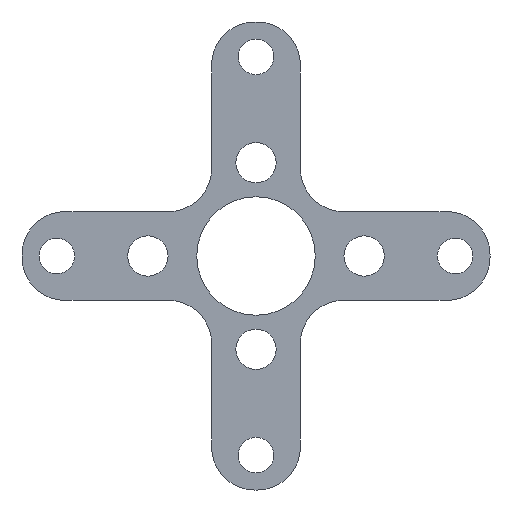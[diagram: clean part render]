
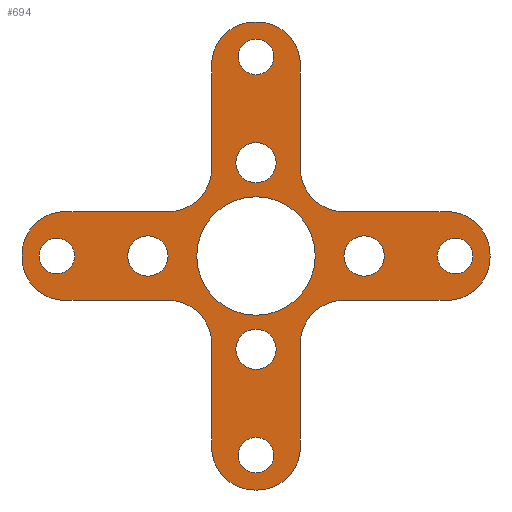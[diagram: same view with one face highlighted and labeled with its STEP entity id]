
A CAD part, front view. The second image highlights one B-rep face of the part: STEP entity #694.
In plain terms, the highlighted planar face has unit normal (0, -1, 0).
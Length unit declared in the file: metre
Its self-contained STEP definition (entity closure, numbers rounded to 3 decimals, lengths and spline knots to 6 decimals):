
#57=LINE('',#1134,#105);
#58=LINE('',#1138,#106);
#59=LINE('',#1142,#107);
#60=LINE('',#1146,#108);
#61=LINE('',#1150,#109);
#62=LINE('',#1154,#110);
#63=LINE('',#1158,#111);
#64=LINE('',#1162,#112);
#65=LINE('',#1166,#113);
#66=LINE('',#1170,#114);
#67=LINE('',#1174,#115);
#68=LINE('',#1178,#116);
#105=VECTOR('',#904,1.);
#106=VECTOR('',#907,1.);
#107=VECTOR('',#910,1.);
#108=VECTOR('',#913,1.);
#109=VECTOR('',#916,1.);
#110=VECTOR('',#919,1.);
#111=VECTOR('',#922,1.);
#112=VECTOR('',#925,1.);
#113=VECTOR('',#928,1.);
#114=VECTOR('',#931,1.);
#115=VECTOR('',#934,1.);
#116=VECTOR('',#937,1.);
#174=ORIENTED_EDGE('',*,*,#362,.F.);
#175=ORIENTED_EDGE('',*,*,#363,.F.);
#176=ORIENTED_EDGE('',*,*,#364,.F.);
#177=ORIENTED_EDGE('',*,*,#365,.F.);
#178=ORIENTED_EDGE('',*,*,#366,.T.);
#179=ORIENTED_EDGE('',*,*,#367,.T.);
#180=ORIENTED_EDGE('',*,*,#368,.F.);
#181=ORIENTED_EDGE('',*,*,#369,.F.);
#182=ORIENTED_EDGE('',*,*,#370,.F.);
#183=ORIENTED_EDGE('',*,*,#371,.F.);
#184=ORIENTED_EDGE('',*,*,#372,.F.);
#185=ORIENTED_EDGE('',*,*,#373,.F.);
#186=ORIENTED_EDGE('',*,*,#374,.F.);
#187=ORIENTED_EDGE('',*,*,#375,.F.);
#188=ORIENTED_EDGE('',*,*,#376,.F.);
#189=ORIENTED_EDGE('',*,*,#377,.F.);
#190=ORIENTED_EDGE('',*,*,#378,.F.);
#191=ORIENTED_EDGE('',*,*,#379,.F.);
#192=ORIENTED_EDGE('',*,*,#380,.F.);
#193=ORIENTED_EDGE('',*,*,#381,.F.);
#194=ORIENTED_EDGE('',*,*,#382,.F.);
#195=ORIENTED_EDGE('',*,*,#383,.F.);
#196=ORIENTED_EDGE('',*,*,#384,.F.);
#197=ORIENTED_EDGE('',*,*,#385,.F.);
#198=ORIENTED_EDGE('',*,*,#386,.F.);
#199=ORIENTED_EDGE('',*,*,#387,.F.);
#200=ORIENTED_EDGE('',*,*,#388,.F.);
#201=ORIENTED_EDGE('',*,*,#389,.F.);
#202=ORIENTED_EDGE('',*,*,#390,.F.);
#203=ORIENTED_EDGE('',*,*,#391,.F.);
#204=ORIENTED_EDGE('',*,*,#392,.T.);
#205=ORIENTED_EDGE('',*,*,#393,.T.);
#206=ORIENTED_EDGE('',*,*,#394,.T.);
#362=EDGE_CURVE('',#456,#456,#514,.T.);
#363=EDGE_CURVE('',#457,#457,#515,.T.);
#364=EDGE_CURVE('',#458,#458,#516,.T.);
#365=EDGE_CURVE('',#459,#459,#517,.T.);
#366=EDGE_CURVE('',#460,#460,#518,.T.);
#367=EDGE_CURVE('',#461,#461,#519,.T.);
#368=EDGE_CURVE('',#462,#463,#520,.T.);
#369=EDGE_CURVE('',#464,#462,#57,.T.);
#370=EDGE_CURVE('',#465,#464,#521,.T.);
#371=EDGE_CURVE('',#466,#465,#58,.T.);
#372=EDGE_CURVE('',#467,#466,#522,.T.);
#373=EDGE_CURVE('',#468,#467,#59,.T.);
#374=EDGE_CURVE('',#469,#468,#523,.T.);
#375=EDGE_CURVE('',#470,#469,#60,.T.);
#376=EDGE_CURVE('',#471,#470,#524,.T.);
#377=EDGE_CURVE('',#472,#471,#61,.T.);
#378=EDGE_CURVE('',#473,#472,#525,.T.);
#379=EDGE_CURVE('',#474,#473,#62,.T.);
#380=EDGE_CURVE('',#475,#474,#526,.T.);
#381=EDGE_CURVE('',#476,#475,#63,.T.);
#382=EDGE_CURVE('',#477,#476,#527,.T.);
#383=EDGE_CURVE('',#478,#477,#64,.T.);
#384=EDGE_CURVE('',#479,#478,#528,.T.);
#385=EDGE_CURVE('',#480,#479,#65,.T.);
#386=EDGE_CURVE('',#481,#480,#529,.T.);
#387=EDGE_CURVE('',#482,#481,#66,.T.);
#388=EDGE_CURVE('',#483,#482,#530,.T.);
#389=EDGE_CURVE('',#484,#483,#67,.T.);
#390=EDGE_CURVE('',#485,#484,#531,.T.);
#391=EDGE_CURVE('',#463,#485,#68,.T.);
#392=EDGE_CURVE('',#486,#486,#532,.T.);
#393=EDGE_CURVE('',#487,#487,#533,.T.);
#394=EDGE_CURVE('',#488,#488,#534,.T.);
#456=VERTEX_POINT('',#1120);
#457=VERTEX_POINT('',#1122);
#458=VERTEX_POINT('',#1124);
#459=VERTEX_POINT('',#1126);
#460=VERTEX_POINT('',#1128);
#461=VERTEX_POINT('',#1130);
#462=VERTEX_POINT('',#1132);
#463=VERTEX_POINT('',#1133);
#464=VERTEX_POINT('',#1135);
#465=VERTEX_POINT('',#1137);
#466=VERTEX_POINT('',#1139);
#467=VERTEX_POINT('',#1141);
#468=VERTEX_POINT('',#1143);
#469=VERTEX_POINT('',#1145);
#470=VERTEX_POINT('',#1147);
#471=VERTEX_POINT('',#1149);
#472=VERTEX_POINT('',#1151);
#473=VERTEX_POINT('',#1153);
#474=VERTEX_POINT('',#1155);
#475=VERTEX_POINT('',#1157);
#476=VERTEX_POINT('',#1159);
#477=VERTEX_POINT('',#1161);
#478=VERTEX_POINT('',#1163);
#479=VERTEX_POINT('',#1165);
#480=VERTEX_POINT('',#1167);
#481=VERTEX_POINT('',#1169);
#482=VERTEX_POINT('',#1171);
#483=VERTEX_POINT('',#1173);
#484=VERTEX_POINT('',#1175);
#485=VERTEX_POINT('',#1177);
#486=VERTEX_POINT('',#1180);
#487=VERTEX_POINT('',#1182);
#488=VERTEX_POINT('',#1184);
#514=CIRCLE('',#768,0.001727);
#515=CIRCLE('',#769,0.001727);
#516=CIRCLE('',#770,0.001727);
#517=CIRCLE('',#771,0.001727);
#518=CIRCLE('',#772,0.001524);
#519=CIRCLE('',#773,0.001524);
#520=CIRCLE('',#774,0.003683);
#521=CIRCLE('',#775,0.003683);
#522=CIRCLE('',#776,0.003683);
#523=CIRCLE('',#777,0.003683);
#524=CIRCLE('',#778,0.003683);
#525=CIRCLE('',#779,0.003683);
#526=CIRCLE('',#780,0.003683);
#527=CIRCLE('',#781,0.003683);
#528=CIRCLE('',#782,0.003683);
#529=CIRCLE('',#783,0.003683);
#530=CIRCLE('',#784,0.003683);
#531=CIRCLE('',#785,0.003683);
#532=CIRCLE('',#786,0.00508);
#533=CIRCLE('',#787,0.001524);
#534=CIRCLE('',#788,0.001524);
#549=EDGE_LOOP('',(#174));
#550=EDGE_LOOP('',(#175));
#551=EDGE_LOOP('',(#176));
#552=EDGE_LOOP('',(#177));
#553=EDGE_LOOP('',(#178));
#554=EDGE_LOOP('',(#179));
#555=EDGE_LOOP('',(#180,#181,#182,#183,#184,#185,#186,#187,#188,#189,#190,
#191,#192,#193,#194,#195,#196,#197,#198,#199,#200,#201,#202,#203));
#556=EDGE_LOOP('',(#204));
#557=EDGE_LOOP('',(#205));
#558=EDGE_LOOP('',(#206));
#619=FACE_BOUND('',#549,.T.);
#620=FACE_BOUND('',#550,.T.);
#621=FACE_BOUND('',#551,.T.);
#622=FACE_BOUND('',#552,.T.);
#623=FACE_BOUND('',#553,.T.);
#624=FACE_BOUND('',#554,.T.);
#625=FACE_BOUND('',#555,.T.);
#626=FACE_BOUND('',#556,.T.);
#627=FACE_BOUND('',#557,.T.);
#628=FACE_BOUND('',#558,.T.);
#680=PLANE('',#767);
#694=ADVANCED_FACE('',(#619,#620,#621,#622,#623,#624,#625,#626,#627,#628),
#680,.T.);
#767=AXIS2_PLACEMENT_3D('',#1118,#888,#889);
#768=AXIS2_PLACEMENT_3D('',#1119,#890,#891);
#769=AXIS2_PLACEMENT_3D('',#1121,#892,#893);
#770=AXIS2_PLACEMENT_3D('',#1123,#894,#895);
#771=AXIS2_PLACEMENT_3D('',#1125,#896,#897);
#772=AXIS2_PLACEMENT_3D('',#1127,#898,#899);
#773=AXIS2_PLACEMENT_3D('',#1129,#900,#901);
#774=AXIS2_PLACEMENT_3D('',#1131,#902,#903);
#775=AXIS2_PLACEMENT_3D('',#1136,#905,#906);
#776=AXIS2_PLACEMENT_3D('',#1140,#908,#909);
#777=AXIS2_PLACEMENT_3D('',#1144,#911,#912);
#778=AXIS2_PLACEMENT_3D('',#1148,#914,#915);
#779=AXIS2_PLACEMENT_3D('',#1152,#917,#918);
#780=AXIS2_PLACEMENT_3D('',#1156,#920,#921);
#781=AXIS2_PLACEMENT_3D('',#1160,#923,#924);
#782=AXIS2_PLACEMENT_3D('',#1164,#926,#927);
#783=AXIS2_PLACEMENT_3D('',#1168,#929,#930);
#784=AXIS2_PLACEMENT_3D('',#1172,#932,#933);
#785=AXIS2_PLACEMENT_3D('',#1176,#935,#936);
#786=AXIS2_PLACEMENT_3D('',#1179,#938,#939);
#787=AXIS2_PLACEMENT_3D('',#1181,#940,#941);
#788=AXIS2_PLACEMENT_3D('',#1183,#942,#943);
#888=DIRECTION('',(0.,-1.,0.));
#889=DIRECTION('',(0.,0.,-1.));
#890=DIRECTION('',(0.,-1.,0.));
#891=DIRECTION('',(0.,0.,-1.));
#892=DIRECTION('',(0.,-1.,0.));
#893=DIRECTION('',(0.,0.,-1.));
#894=DIRECTION('',(0.,-1.,0.));
#895=DIRECTION('',(0.,0.,-1.));
#896=DIRECTION('',(0.,-1.,0.));
#897=DIRECTION('',(0.,0.,-1.));
#898=DIRECTION('',(0.,1.,0.));
#899=DIRECTION('',(0.,0.,1.));
#900=DIRECTION('',(0.,1.,0.));
#901=DIRECTION('',(0.,0.,1.));
#902=DIRECTION('',(0.,1.,0.));
#903=DIRECTION('',(0.,0.,-1.));
#904=DIRECTION('',(-1.,0.,0.));
#905=DIRECTION('',(0.,-1.,0.));
#906=DIRECTION('',(0.,0.,-1.));
#907=DIRECTION('',(0.,0.,1.));
#908=DIRECTION('',(0.,1.,0.));
#909=DIRECTION('',(0.,0.,-1.));
#910=DIRECTION('',(-1.,0.,0.));
#911=DIRECTION('',(0.,1.,0.));
#912=DIRECTION('',(0.,0.,-1.));
#913=DIRECTION('',(0.,0.,-1.));
#914=DIRECTION('',(0.,-1.,0.));
#915=DIRECTION('',(0.,0.,-1.));
#916=DIRECTION('',(-1.,0.,0.));
#917=DIRECTION('',(0.,1.,0.));
#918=DIRECTION('',(0.,0.,-1.));
#919=DIRECTION('',(0.,0.,-1.));
#920=DIRECTION('',(0.,1.,0.));
#921=DIRECTION('',(0.,0.,1.));
#922=DIRECTION('',(1.,0.,0.));
#923=DIRECTION('',(0.,-1.,0.));
#924=DIRECTION('',(0.,0.,-1.));
#925=DIRECTION('',(0.,0.,-1.));
#926=DIRECTION('',(0.,1.,0.));
#927=DIRECTION('',(0.,0.,1.));
#928=DIRECTION('',(1.,0.,0.));
#929=DIRECTION('',(0.,1.,0.));
#930=DIRECTION('',(0.,0.,-1.));
#931=DIRECTION('',(0.,0.,1.));
#932=DIRECTION('',(0.,-1.,0.));
#933=DIRECTION('',(0.,0.,-1.));
#934=DIRECTION('',(1.,0.,0.));
#935=DIRECTION('',(0.,1.,0.));
#936=DIRECTION('',(0.,0.,-1.));
#937=DIRECTION('',(0.,0.,1.));
#938=DIRECTION('',(0.,1.,0.));
#939=DIRECTION('',(0.,0.,1.));
#940=DIRECTION('',(0.,1.,0.));
#941=DIRECTION('',(0.,0.,1.));
#942=DIRECTION('',(0.,1.,0.));
#943=DIRECTION('',(0.,0.,1.));
#1118=CARTESIAN_POINT('',(-0.016383,0.,-0.000127));
#1119=CARTESIAN_POINT('',(0.,0.,-0.008001));
#1120=CARTESIAN_POINT('',(0.,0.,-0.009728));
#1121=CARTESIAN_POINT('',(0.,0.,0.008001));
#1122=CARTESIAN_POINT('',(0.,0.,0.006274));
#1123=CARTESIAN_POINT('',(0.009271,0.,0.));
#1124=CARTESIAN_POINT('',(0.009271,0.,-0.001727));
#1125=CARTESIAN_POINT('',(-0.009271,0.,0.));
#1126=CARTESIAN_POINT('',(-0.009271,0.,-0.001727));
#1127=CARTESIAN_POINT('',(-0.017082,0.,0.));
#1128=CARTESIAN_POINT('',(-0.017082,0.,0.001524));
#1129=CARTESIAN_POINT('',(0.,0.,-0.017082));
#1130=CARTESIAN_POINT('',(0.,0.,-0.015558));
#1131=CARTESIAN_POINT('',(-0.016383,0.,-0.000127));
#1132=CARTESIAN_POINT('',(-0.016383,0.,-0.00381));
#1133=CARTESIAN_POINT('',(-0.020066,0.,-0.000127));
#1134=CARTESIAN_POINT('',(-0.016383,0.,-0.00381));
#1135=CARTESIAN_POINT('',(-0.007493,0.,-0.00381));
#1136=CARTESIAN_POINT('',(-0.007493,0.,-0.007493));
#1137=CARTESIAN_POINT('',(-0.00381,0.,-0.007493));
#1138=CARTESIAN_POINT('',(-0.00381,0.,-0.007493));
#1139=CARTESIAN_POINT('',(-0.00381,0.,-0.016383));
#1140=CARTESIAN_POINT('',(-0.000127,0.,-0.016383));
#1141=CARTESIAN_POINT('',(-0.000127,0.,-0.020066));
#1142=CARTESIAN_POINT('',(-0.000127,0.,-0.020066));
#1143=CARTESIAN_POINT('',(0.000127,0.,-0.020066));
#1144=CARTESIAN_POINT('',(0.000127,0.,-0.016383));
#1145=CARTESIAN_POINT('',(0.00381,0.,-0.016383));
#1146=CARTESIAN_POINT('',(0.00381,0.,-0.007493));
#1147=CARTESIAN_POINT('',(0.00381,0.,-0.007493));
#1148=CARTESIAN_POINT('',(0.007493,0.,-0.007493));
#1149=CARTESIAN_POINT('',(0.007493,0.,-0.00381));
#1150=CARTESIAN_POINT('',(0.007493,0.,-0.00381));
#1151=CARTESIAN_POINT('',(0.016383,0.,-0.00381));
#1152=CARTESIAN_POINT('',(0.016383,0.,-0.000127));
#1153=CARTESIAN_POINT('',(0.020066,0.,-0.000127));
#1154=CARTESIAN_POINT('',(0.020066,0.,0.000127));
#1155=CARTESIAN_POINT('',(0.020066,0.,0.000127));
#1156=CARTESIAN_POINT('',(0.016383,0.,0.000127));
#1157=CARTESIAN_POINT('',(0.016383,0.,0.00381));
#1158=CARTESIAN_POINT('',(0.007493,0.,0.00381));
#1159=CARTESIAN_POINT('',(0.007493,0.,0.00381));
#1160=CARTESIAN_POINT('',(0.007493,0.,0.007493));
#1161=CARTESIAN_POINT('',(0.00381,0.,0.007493));
#1162=CARTESIAN_POINT('',(0.00381,0.,0.016383));
#1163=CARTESIAN_POINT('',(0.00381,0.,0.016383));
#1164=CARTESIAN_POINT('',(0.000127,0.,0.016383));
#1165=CARTESIAN_POINT('',(0.000127,0.,0.020066));
#1166=CARTESIAN_POINT('',(-0.000127,0.,0.020066));
#1167=CARTESIAN_POINT('',(-0.000127,0.,0.020066));
#1168=CARTESIAN_POINT('',(-0.000127,0.,0.016383));
#1169=CARTESIAN_POINT('',(-0.00381,0.,0.016383));
#1170=CARTESIAN_POINT('',(-0.00381,0.,0.016383));
#1171=CARTESIAN_POINT('',(-0.00381,0.,0.007493));
#1172=CARTESIAN_POINT('',(-0.007493,0.,0.007493));
#1173=CARTESIAN_POINT('',(-0.007493,0.,0.00381));
#1174=CARTESIAN_POINT('',(-0.016383,0.,0.00381));
#1175=CARTESIAN_POINT('',(-0.016383,0.,0.00381));
#1176=CARTESIAN_POINT('',(-0.016383,0.,0.000127));
#1177=CARTESIAN_POINT('',(-0.020066,0.,0.000127));
#1178=CARTESIAN_POINT('',(-0.020066,0.,0.000127));
#1179=CARTESIAN_POINT('',(0.,0.,0.));
#1180=CARTESIAN_POINT('',(0.,0.,0.00508));
#1181=CARTESIAN_POINT('',(0.017082,0.,0.));
#1182=CARTESIAN_POINT('',(0.017082,0.,0.001524));
#1183=CARTESIAN_POINT('',(0.,0.,0.017082));
#1184=CARTESIAN_POINT('',(0.,0.,0.018606));
